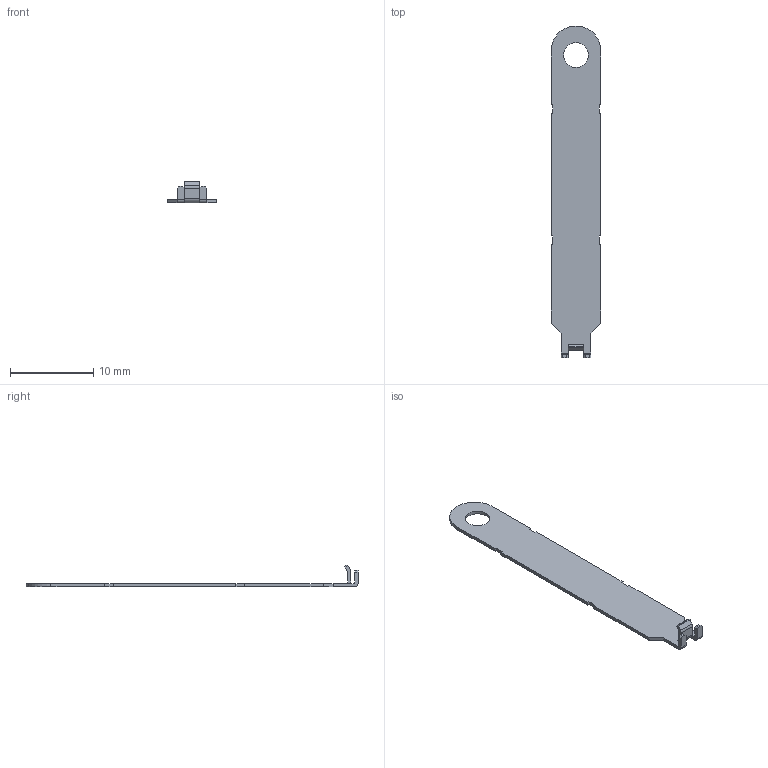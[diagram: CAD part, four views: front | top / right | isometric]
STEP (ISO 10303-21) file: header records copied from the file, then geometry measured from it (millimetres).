
FILE_DESCRIPTION (( 'STEP AP203' ), '1' );
FILE_NAME ('90609-0001 MHF 4L MATING AND UNMATING TOOL.STEP', '2020-04-08T06:23:34', ( '' ), ( '' ), 'SwSTEP 2.0', 'SolidWorks 2017', '' );
FILE_SCHEMA (( 'CONFIG_CONTROL_DESIGN' ));
Length unit declared in the file: millimetre
Products named in the file (1): 90609-0001 MHF 4L MATING AND UNMATING TOOL
Bounding box: 6 x 40 x 2.65 mm (x, y, z)
Volume: 89.8 mm3; surface area: 493.3 mm2
Topology: 1 solids, 1 shells, 59 faces, 165 edges, 108 vertices
Faces by surface type: plane 47, cylinder 12
Entity records: 1958 total; most frequent: CARTESIAN_POINT 333, ORIENTED_EDGE 330, DIRECTION 311, EDGE_CURVE 165, LINE 139, VECTOR 139, VERTEX_POINT 108, AXIS2_PLACEMENT_3D 86
